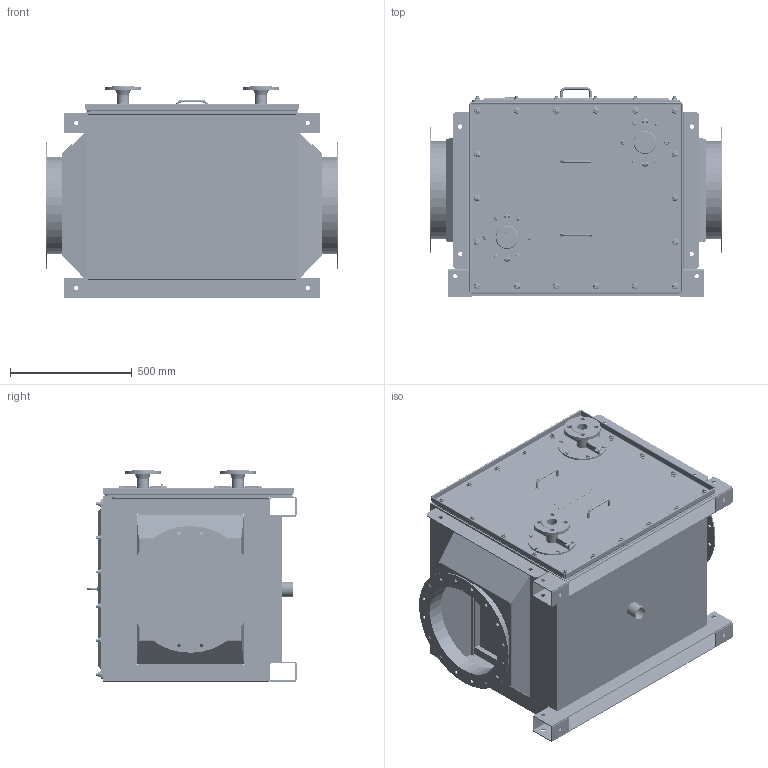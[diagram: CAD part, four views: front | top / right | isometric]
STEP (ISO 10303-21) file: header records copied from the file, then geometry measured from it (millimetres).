
FILE_DESCRIPTION (( 'STEP AP203' ), '1' );
FILE_NAME ('FW-600-H-A.STEP', '2024-12-19T11:14:20', ( '' ), ( '' ), 'SwSTEP 2.0', 'SolidWorks 2016', '' );
FILE_SCHEMA (( 'CONFIG_CONTROL_DESIGN' ));
Length unit declared in the file: millimetre
Products named in the file (55): F.350.E50 - Befestigung Verblendung_F.350.E50 - Befestigung Verblendung; F.339.E02 - Gehäuse Teil 2 Gesamt_F.339.E02 - Geh„use Teil 2 Gesamt; N.001.DIN2633 - Vorschweißflansch DIN2633 PN16_DIN2633.DN40 - Vorschweiáflansch DIN2633 DN40 (1,5 Zoll); DIN6923 - Sechskantmutter mit Flansch_DIN6923.M12 - Sechskantmutter mit Flansch M12; F.339.E18 - Manschette Halbteil_F.339.E18B - Manschette Halbteil 1,5 Zoll; F.350.Z11 - Befestigung Verblendung Gesamt_F.350.Z11 - Befestigung Verblendung Gesamt; F.339.E06 - Statik Teil 2_F.339.E06B - Statik Teil 2B; F.800.E100 - FERCHER Hebe-謘e_F.800.100A - Hebe-檚e Typ A; F.331.01 - FERCHER Abgas Norm-Flansch_F.331.01.DN400 - FERCHER Abgas Norm-Flansch DN400; F.350.E40 - Schiene - Teil 1_F.350.E40B - Schiene Teil 1B; F.339.E03 - Gehäuse Teil 3_F.339.E03B - Geh„use Teil 3B; F.350.E41 - Schiene - Teil 2_F.350.E41B - Schiene Teil 2B; F.339.E04 - Gehäuse Teil 4 Gesamt_F.339.E04B - Geh„use Teil 4B; F.339.E10 - Abgas Rohr_F.339.E10B - Abgas Rohr Typ B; F.339.E13 - Blende 3_F.339.E13 - Blende 3; DIN933 - Sechskantschraube mit Gewinde bis unter Kopf_DIN933.M5L16; DIN976 - Gewindestift_Gewindestift M12L20; F.350.E42 - Rolle_F.350.E42 - Rolle; F.339.E12 - Blende 2_F.339.E12B - Blende 2B; F.339.Z10 - Manschette Gesamt_1,5 Zoll; F.339.Z02 - Abdeckung Oben Gesamt_F.339.Z02B - Abdeckung Oben B; F.350.E43 - Schlitzblech_F.350.E43B - Schlitzblech Typ B; F.339.D01 - Dichtung Abdeckung Oben_F.339.D01B - Dichtung Abdeckung Oben B; F.339.E14 - Blende 4_F.339.E14 - Blende 4; F.350 - Block 01_F.350 - Block 01 - FW-600-AR; F.339.E01 - Gehäuse Teil 1_F.339.E01B - Geh„use Teil 1B; F.339.E19 - Kondensatabflussrohr_F.339.E19 - Kondensatabflussrohr; N.014.04 - Edelstahl Handgriff_N.014.04A - Edelstahl Handgriff; F.339.E31 - Gewindestift M12 L30_F.339.E31 - Gewindestift M12 L30; F.339.E02 - Gehäuse Teil 2_F.339.E02 - Geh„use Teil 2; F.350 - Schraubengruppe Fixierung; Plakette KLEIN - mit Schrauben_N.012.01 - FERCHER Plakette Klein; FW-600-H-A; F.339.E30 - Gewindestift M8 L20_F.339.E30 - Gewindestift M8 L20; DIN6923 - Sechskantmutter mit Flansch_DIN6923.M8 - Sechskantmutter mit Flansch M8; F.339.E11 - Blende 1_F.339.E11B - Blende 1B; F.350.Z12 - Verblendung Gesamt_F.350.Z12B - Verblendung Gesamt Typ B; F.339.Z03 - Frontabdeckung Gesamt_F.339.Z03A - Frontabdeckung A; N.014.04 - Edelstahl Handgriff verschraubt_N.014.04 - Edelstahl Handgriff verschraubt; N.014.04 - Scheibe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
Assembly tree (180 placements, depth 4):
  FW-600-H-A
    F.339.E05 - Statik Teil 1_F.339.E05 - Statik Teil 1  x2
    F.339.E06 - Statik Teil 2_F.339.E06B - Statik Teil 2B  x2
    F.339.E07 - Statik Teil 3_F.339.E07 - Statik Teil 3  x2
    F.339.E08 - Statik Teil 4_F.339.E08 - Statik Teil 4  x4
    F.339.E01 - Gehäuse Teil 1_F.339.E01B - Geh„use Teil 1B
    F.339.E03 - Gehäuse Teil 3_F.339.E03B - Geh„use Teil 3B
    F.339.E02 - Gehäuse Teil 2 Gesamt_F.339.E02 - Geh„use Teil 2 Gesamt
      F.339.E02 - Gehäuse Teil 2_F.339.E02 - Geh„use Teil 2
      F.339.E31 - Gewindestift M12 L30_F.339.E31 - Gewindestift M12 L30  x18
    F.339.E04 - Gehäuse Teil 4 Gesamt_F.339.E04B - Geh„use Teil 4B
      F.339.E04 - Gehäuse Teil 4_F.339.E04B - Geh„use Teil 4B
      F.339.E31 - Gewindestift M12 L30_F.339.E31 - Gewindestift M12 L30  x20
    F.339.E09 - Übergang_F.339.E09B - šbergang Typ B  x2
    F.339.E10 - Abgas Rohr_F.339.E10B - Abgas Rohr Typ B  x2
    F.331.01 - FERCHER Abgas Norm-Flansch_F.331.01.DN400 - FERCHER Abgas Norm-Flansch DN400  x2
    F.339.Z03 - Frontabdeckung Gesamt_F.339.Z03A - Frontabdeckung A
      F.339.E16 - Frontabdeckung 1_F.339.E16B - Frontabdeckung 1B
      N.014.04 - Edelstahl Handgriff verschraubt_N.014.04 - Edelstahl Handgriff verschraubt  x2
        N.014.04 - Edelstahl Handgriff_N.014.04A - Edelstahl Handgriff
        N.014.04 - Scheibe
        DIN933 - Sechskantschraube mit Gewinde bis unter Kopf_DIN933.M5L16
      F.339.E30 - Gewindestift M8 L20_F.339.E30 - Gewindestift M8 L20  x12
      Plakette KLEIN - mit Schrauben_N.012.01 - FERCHER Plakette Klein
        N.012.01 - FERCHER Plakette Klein_N.012.01 - FERCHER Schild Klein
      DIN6923 - Sechskantmutter mit Flansch_DIN6923.M12 - Sechskantmutter mit Flansch M12  x18
    F.339.Z02 - Abdeckung Oben Gesamt_F.339.Z02B - Abdeckung Oben B
      F.339.E15 - Abdeckung Oben_F.339.E15B - Abdeckung Oben B
      N.014.04 - Edelstahl Handgriff verschraubt_N.014.04 - Edelstahl Handgriff verschraubt
        N.014.04 - Edelstahl Handgriff_N.014.04A - Edelstahl Handgriff
        N.014.04 - Scheibe  x2
        DIN933 - Sechskantschraube mit Gewinde bis unter Kopf_DIN933.M5L16  x2
      Plakette KLEIN - mit Schrauben_N.012.01 - FERCHER Plakette Klein
        N.012.01 - FERCHER Plakette Klein_N.012.01 - FERCHER Schild Klein
      DIN6923 - Sechskantmutter mit Flansch_DIN6923.M12 - Sechskantmutter mit Flansch M12  x20
    F.339.Z10 - Manschette Gesamt_1,5 Zoll  x2
      F.339.D03 - Dichtung Manschette_F.339.D03B - Dichtung Manschette B
      F.339.E18 - Manschette Halbteil_F.339.E18B - Manschette Halbteil 1,5 Zoll
      DIN6921 - Sechskantschraube mit Flansch_M8L16
      DIN6923 - Sechskantmutter mit Flansch_DIN6923.M8 - Sechskantmutter mit Flansch M8
    F.339.E11 - Blende 1_F.339.E11B - Blende 1B  x2
    F.339.E12 - Blende 2_F.339.E12B - Blende 2B  x2
    F.339.E13 - Blende 3_F.339.E13 - Blende 3  x2
    F.339.E14 - Blende 4_F.339.E14 - Blende 4  x2
    F.339.D02 - Dichtung Frontabdeckung_F.339.D02 - Dichtung Frontabdeckung
    F.339.D01 - Dichtung Abdeckung Oben_F.339.D01B - Dichtung Abdeckung Oben B
    F.350.Z02 - FW-Auszieh-Modul - Gesamt_F.350.Z02D - Modul FW-600(A)
      N.001.DIN2633 - Vorschweißflansch DIN2633 PN16_DIN2633.DN40 - Vorschweiáflansch DIN2633 DN40 (1,5 Zoll)  x2
      F.350.Z10 - Rollenschiene Gesamt_F.350.Z10B - Rollenschiene Gesamt Typ B  x2
        F.350.E40 - Schiene - Teil 1_F.350.E40B - Schiene Teil 1B
        F.350.E41 - Schiene - Teil 2_F.350.E41B - Schiene Teil 2B
        F.350.E42 - Rolle_F.350.E42 - Rolle
      F.800.E100 - FERCHER Hebe-謘e_F.800.100A - Hebe-檚e Typ A  x2
      F.350.Z12 - Verblendung Gesamt_F.350.Z12B - Verblendung Gesamt Typ B
        F.350.E51 - Verblendung_F.350.E51B - Verblendung Typ B
        DIN6923 - Sechskantmutter mit Flansch_DIN6923.M12 - Sechskantmutter mit Flansch M12  x4
      F.350.Z11 - Befestigung Verblendung Gesamt_F.350.Z11 - Befestigung Verblendung Gesamt  x4
        F.350.E50 - Befestigung Verblendung_F.350.E50 - Befestigung Verblendung
        DIN976 - Gewindestift_Gewindestift M12L20
      F.350.E43 - Schlitzblech_F.350.E43B - Schlitzblech Typ B
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Bounding box: 1200 x 858.78 x 867 mm (x, y, z)
Volume: 212336247.9 mm3; surface area: 17901248.1 mm2
Topology: 195 solids, 195 shells, 4967 faces, 11663 edges, 7102 vertices
Faces by surface type: cylinder 1763, plane 1586, torus 796, bspline 330, cone 268, sphere 224
Entity records: 61452 total; most frequent: CARTESIAN_POINT 15599, DIRECTION 7765, ORIENTED_EDGE 7346, EDGE_CURVE 3673, AXIS2_PLACEMENT_3D 2908, VERTEX_POINT 2262, EDGE_LOOP 1959, VECTOR 1949
